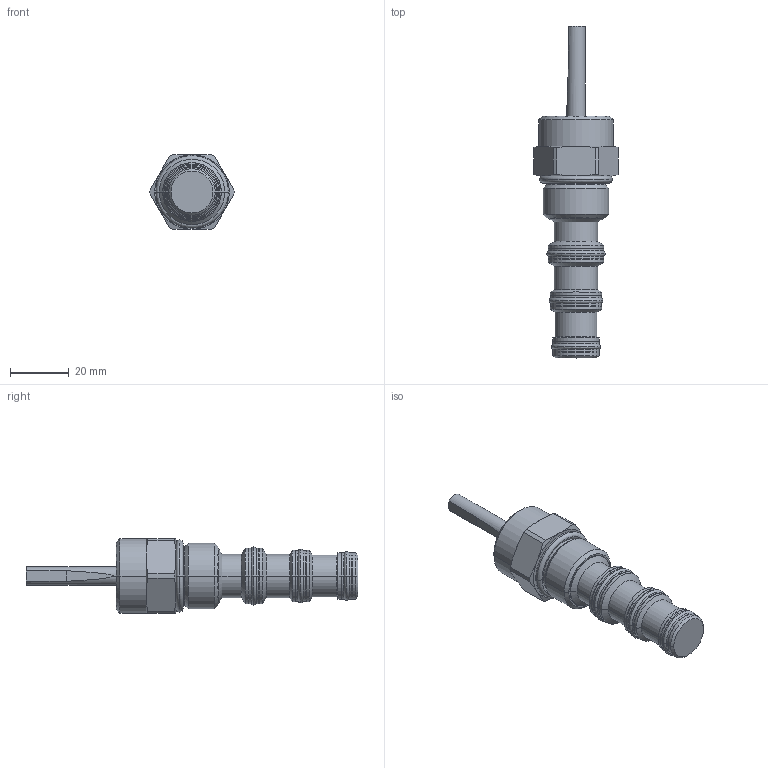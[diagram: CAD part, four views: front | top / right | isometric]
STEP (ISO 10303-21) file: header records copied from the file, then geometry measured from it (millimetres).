
FILE_DESCRIPTION((''),'2;1');
FILE_NAME('5314000_SW0002','2009-02-04T',('jcs'),(''),'PRO/ENGINEER BY PARAMETRIC TECHNOLOGY CORPORATION, 2008010','PRO/ENGINEER BY PARAMETRIC TECHNOLOGY CORPORATION, 2008010','');
FILE_SCHEMA(('CONFIG_CONTROL_DESIGN'));
Length unit declared in the file: inch
Products named in the file (1): 5314000_SW0002
Bounding box: 28.57 x 112.88 x 25.4 mm (x, y, z)
Volume: 26446.8 mm3; surface area: 9570.8 mm2
Topology: 5 solids, 5 shells, 184 faces, 387 edges, 225 vertices
Faces by surface type: cylinder 54, plane 35, cone 33, revolution 32, torus 30
Entity records: 5911 total; most frequent: CARTESIAN_POINT 1865, DIRECTION 898, ORIENTED_EDGE 770, EDGE_CURVE 385, AXIS2_PLACEMENT_3D 383, CIRCLE 231, VERTEX_POINT 225, EDGE_LOOP 206
